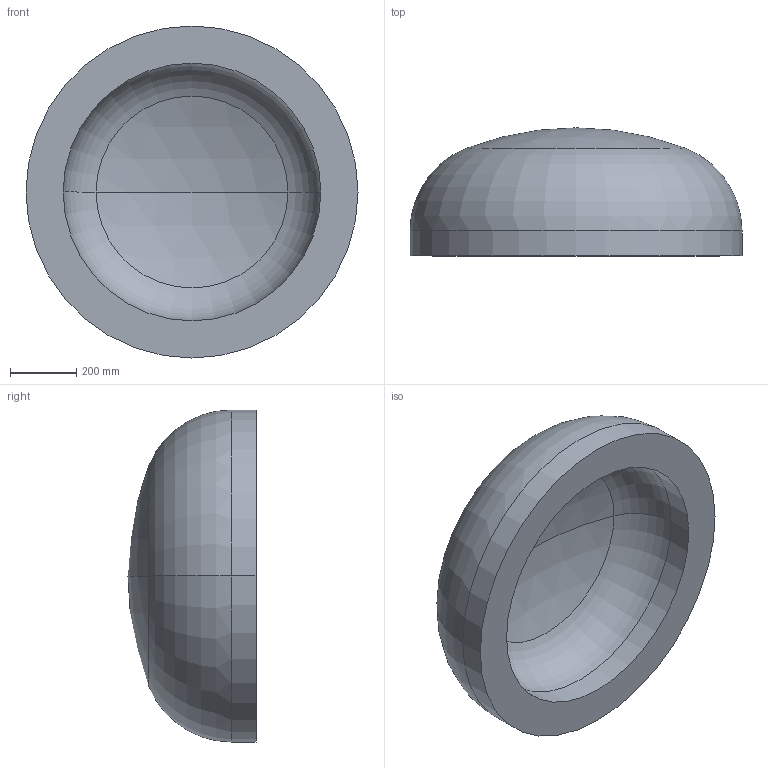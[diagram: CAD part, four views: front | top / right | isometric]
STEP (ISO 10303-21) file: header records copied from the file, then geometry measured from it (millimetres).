
FILE_DESCRIPTION (( 'STEP AP203' ), '1' );
FILE_NAME ('DIN 28013 Korbbogenform_-_Boden DIN 28013 - 1000 x 75 - I - s=112.step', '2016-07-01T08:57:52', ( '' ), ( '' ), 'SwSTEP 2.0', 'SolidWorks 2013', '' );
FILE_SCHEMA (( 'CONFIG_CONTROL_DESIGN' ));
Length unit declared in the file: millimetre
Products named in the file (1): DIN 28013 Korbbogenform_-_Boden DIN 28013 - 1000 x 75 - I - s=112
Bounding box: 1000 x 385.56 x 1000 mm (x, y, z)
Volume: 129761217 mm3; surface area: 2655886.6 mm2
Topology: 1 solids, 1 shells, 13 faces, 24 edges, 14 vertices
Faces by surface type: torus 4, cylinder 4, sphere 4, plane 1
Entity records: 407 total; most frequent: DIRECTION 72, CARTESIAN_POINT 52, ORIENTED_EDGE 48, AXIS2_PLACEMENT_3D 34, EDGE_CURVE 24, CIRCLE 20, VERTEX_POINT 14, EDGE_LOOP 14
